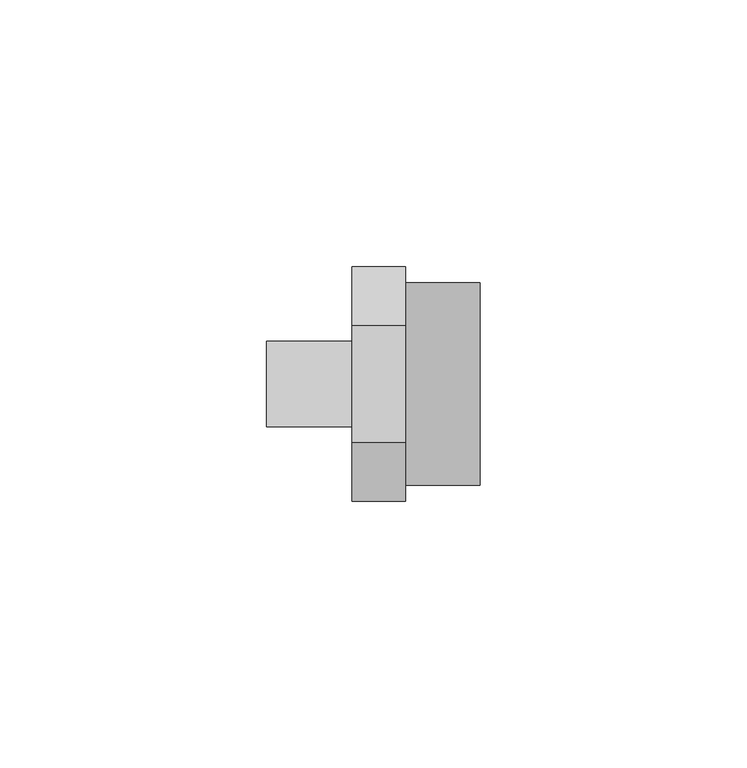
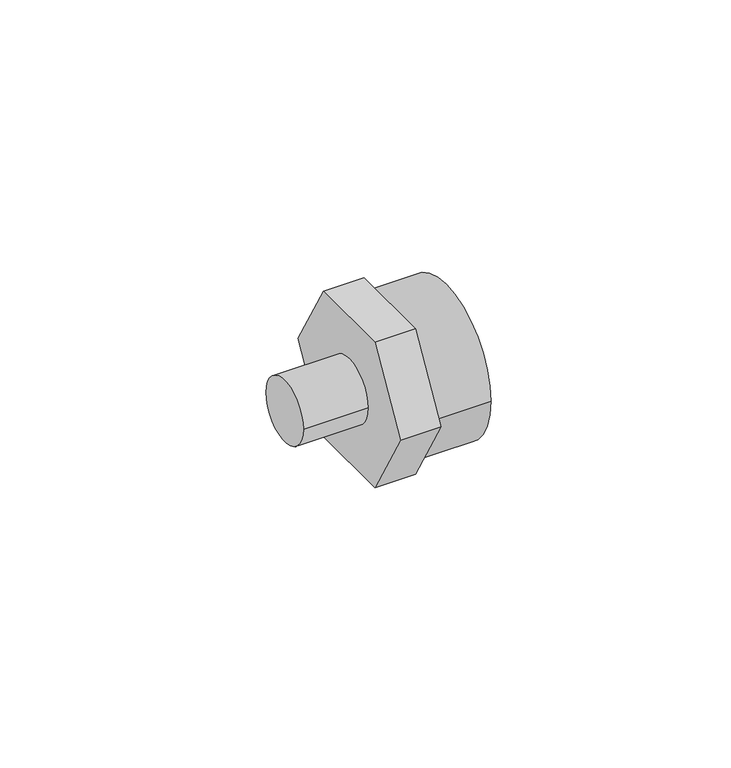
"""IFC4 building model written with IfcOpenShell, lengths in millimetres: pipe fitting geometry, 01011006 : Mamelons de réductio MxF."""

from ifc_helpers import new_model, si_unit, point, frame, origin, origin_2d, place, context, project, spatial, polyline, circle_curve, trimmed, segment, composite_curve, outline, extrude, source, transform, mapped, element, save


def pipe_fitting_313d0c1e(model_context):
    return source(origin(), model_context, "Body", "SweptSolid", [
        extrude(outline(composite_curve([segment(trimmed(circle_curve(origin_2d(), 8.0), [point((8.0, 0.0))], [point((-8.0, 0.0))], False, "CARTESIAN"), True, "CONTINUOUS"), segment(trimmed(circle_curve(origin_2d(), 8.0), [point((-8.0, 0.0))], [point((8.0, 0.0))], False, "CARTESIAN"), True, "CONTINUOUS")], self_intersect=False)), frame((0.0, 0.0, 0.0), z_axis=(1.0, 0.0, 0.0), x_axis=(0.0, 1.0, 0.0)), (0.0, 0.0, 1.0), 16.0),
        extrude(outline(polyline([(-10.9696551, 19.0), (10.9696551, 19.0), (21.9393102, 0.0), (10.9696551, -19.0), (-10.9696551, -19.0), (-21.9393102, 0.0), (-10.9696551, 19.0)])), frame((16.0, 0.0, 0.0), z_axis=(1.0, 0.0, 0.0), x_axis=(0.0, 1.0, 0.0)), (0.0, 0.0, 1.0), 10.0),
        extrude(outline(composite_curve([segment(trimmed(circle_curve(origin_2d(), 19.0), [point((-19.0, 0.0))], [point((19.0, 0.0))], False, "CARTESIAN"), True, "CONTINUOUS"), segment(trimmed(circle_curve(origin_2d(), 19.0), [point((19.0, 0.0))], [point((-19.0, 0.0))], False, "CARTESIAN"), True, "CONTINUOUS")], self_intersect=False)), frame((26.0, 0.0, 0.0), z_axis=(1.0, 0.0, 0.0), x_axis=(0.0, 1.0, 0.0)), (0.0, 0.0, 1.0), 14.0),
    ])


if __name__ == "__main__":
    model = new_model("IFC4")
    model_context = context("Model", 3, world=origin())
    ifc_project = project(units=[si_unit("LENGTHUNIT", "METRE", prefix="MILLI")], contexts=[model_context])
    site = spatial("IfcSite", under=ifc_project)
    building = spatial("IfcBuilding", under=site)
    placement = place(None, origin())
    pipe_fitting_shape = pipe_fitting_313d0c1e(model_context)
    element("IfcPipeFitting", 1, ObjectType="01011006 : Mamelons de réductio MxF", at=placement, inside=building, context=model_context, shape_type="MappedRepresentation", body=[
        mapped(pipe_fitting_shape, transform((0.0, 0.0, 0.0), x_axis=(1.0, 0.0, 0.0), y_axis=(0.0, 1.0, 0.0), z_axis=(0.0, 0.0, 1.0))),
    ])
    save(model, "model.ifc")
